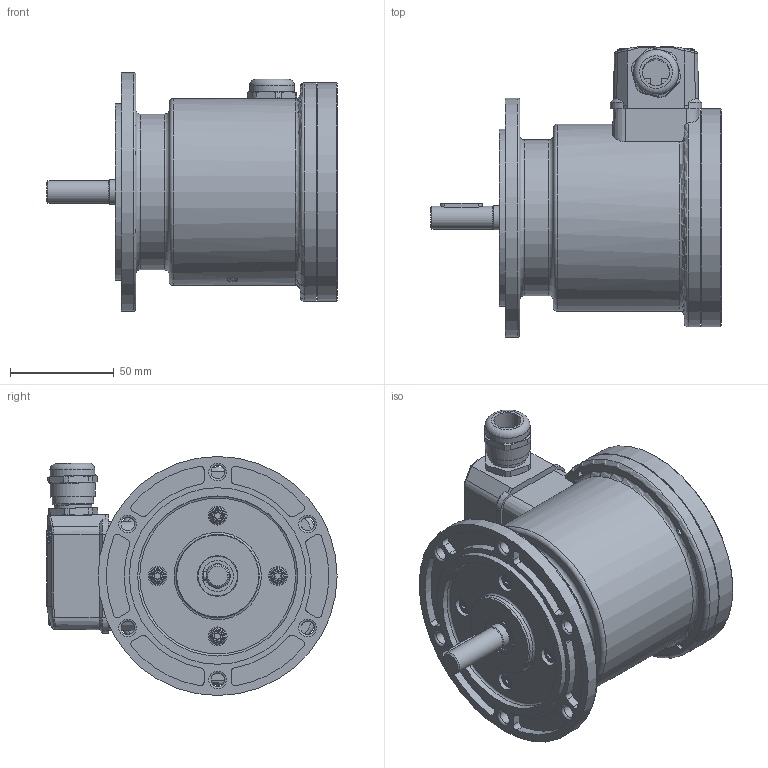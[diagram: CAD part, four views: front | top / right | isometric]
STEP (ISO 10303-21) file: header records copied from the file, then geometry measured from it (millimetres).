
FILE_DESCRIPTION(/* description */ (''),/* implementation_level */ '2;1');
FILE_NAME(/* name */ 'M:\__3D-Daten\Loeschen\Step\Baumer_POG9-2_CAD.stp',/* time_stamp */ '2018-07-31T11:01:20+02:00',/* author */ ('mbir'),/* organization */ (''),/* preprocessor_version */ 'ST-DEVELOPER v16.1',/* originating_system */ 'Autodesk Inventor 2016',/* authorisation */ '');
FILE_SCHEMA (('AUTOMOTIVE_DESIGN { 1 0 10303 214 3 1 1 }'));
Length unit declared in the file: centimetre
Products named in the file (1): Baumer_POG9-2_CAD
Bounding box: 140 x 139.7 x 115 mm (x, y, z)
Volume: 732949.6 mm3; surface area: 96701.8 mm2
Topology: 3 solids, 15 shells, 2179 faces, 5674 edges, 3739 vertices
Faces by surface type: plane 1268, cylinder 550, bspline 165, cone 97, torus 87, sphere 12
Full cylindrical faces by diameter (mm): 0.457 x2, 1.6 x9, 1.75 x4, 2.5 x4, 2.7 x2, 2.8 x11, 2.9 x11, 3.5 x2, 3.6 x2, 3.7 x6, 3.8 x4, 3.9 x4, 4 x6, 4.5 x4, 5 x1, 5.2 x1, 6.5 x6, 8 x10, 8.5 x4, 9 x4, 11 x1, 11.8 x1, 12 x1, 13 x1, 14.2 x1, 15 x1, 18 x3, 18.376 x2, 19 x2, 20 x1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
Entity records: 69745 total; most frequent: CARTESIAN_POINT 17902, ORIENTED_EDGE 10726, DIRECTION 10284, EDGE_CURVE 5361, VERTEX_POINT 3645, AXIS2_PLACEMENT_3D 3472, LINE 3340, VECTOR 3340
